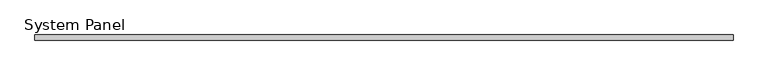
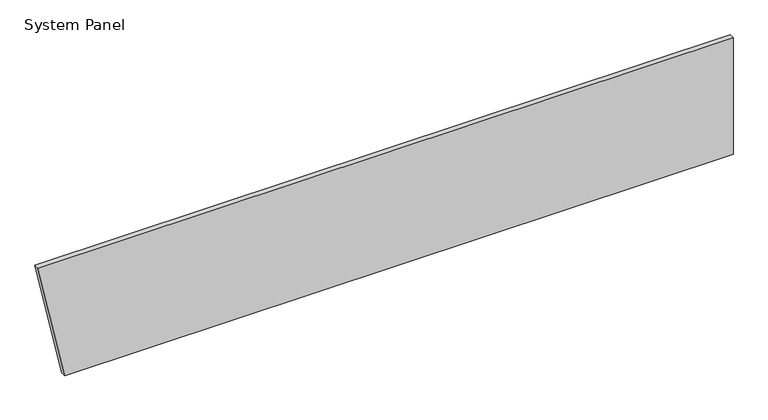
"""IFC4 building model written with IfcOpenShell, lengths in millimetres: plate geometry, System Panel : Equitilt_FlameGuard_50mm_Plain_Surfmist."""

from ifc_helpers import new_model, si_unit, frame, origin, place, context, project, spatial, polyline, outline, extrude, source, transform, mapped, element, save


def system_panel_3d751c13(model_context):
    return source(origin(), model_context, "Body", "SweptSolid", [
        extrude(outline(polyline([(0.0, -3125.4358309), (0.0, 3386.3074928), (1200.0, 3386.3074928), (1200.0, -3386.3074928), (0.0, -3125.4358309)])), frame((0.0, -50.0, 0.0), z_axis=(0.0, 1.0, 0.0), x_axis=(0.0, 0.0, 1.0)), (0.0, 0.0, 1.0), 50.0),
    ])


if __name__ == "__main__":
    model = new_model("IFC4")
    model_context = context("Model", 3, world=origin())
    ifc_project = project(units=[si_unit("LENGTHUNIT", "METRE", prefix="MILLI")], contexts=[model_context])
    site = spatial("IfcSite", under=ifc_project)
    building = spatial("IfcBuilding", under=site)
    placement = place(None, origin())
    system_panel_shape = system_panel_3d751c13(model_context)
    element("IfcPlate", 1, ObjectType="System Panel : Equitilt_FlameGuard_50mm_Plain_Surfmist", at=placement, inside=building, context=model_context, shape_type="MappedRepresentation", body=[
        mapped(system_panel_shape, transform((0.0, 0.0, 0.0), x_axis=(1.0, 0.0, 0.0), y_axis=(0.0, 1.0, 0.0), z_axis=(0.0, 0.0, 1.0))),
    ])
    save(model, "model.ifc")
